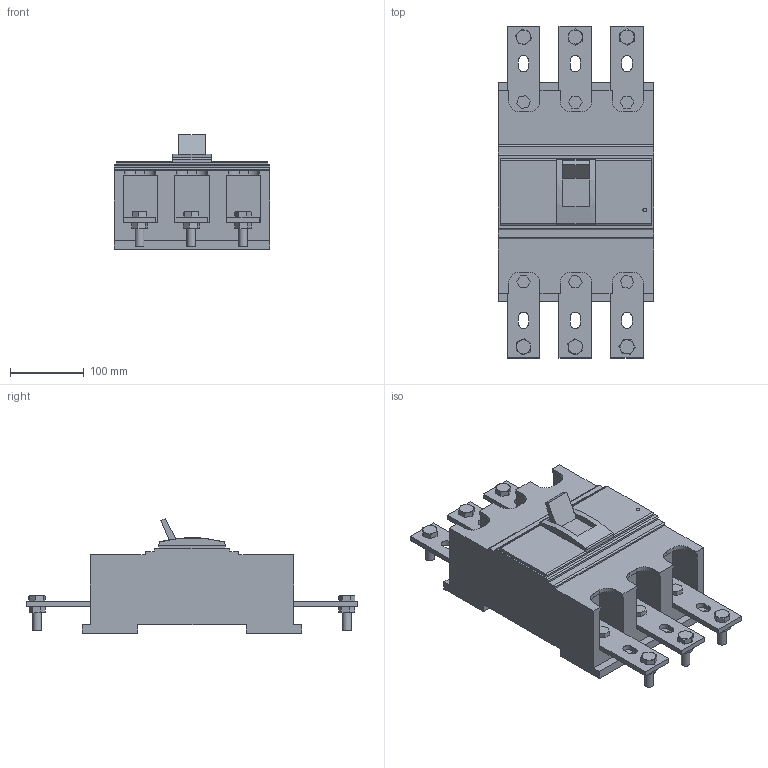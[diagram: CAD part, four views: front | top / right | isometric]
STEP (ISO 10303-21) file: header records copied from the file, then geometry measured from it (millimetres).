
FILE_DESCRIPTION (( 'STEP AP214' ), '1' );
FILE_NAME ('BW630EAG-3P.STEP', '2014-10-23T06:03:10', ( '' ), ( '' ), 'SwSTEP 2.0', 'SolidWorks 2014', '' );
FILE_SCHEMA (( 'AUTOMOTIVE_DESIGN' ));
Length unit declared in the file: millimetre
Products named in the file (27): Hexagon_Bolt_M12_L40_2; BW630EAG-3P_PLATE1; Hexagon_Bolt_M10_L35_5; Hexagon_Nut_M12_2; Hexagon_Bolt_M10_L35_4; Hexagon_Bolt_M10_L35_3; Hexagon_Bolt_M10_L35_2; BW630EAG-3P_PLATE6; Hexagon_Bolt_M12_L40_1; BW630EAG_Switch; Hexagon_Bolt_M10_L35_1; BW630EAG-3P_CASE.; Hexagon_Nut_M12_3; BW630EAG-3P_PLATE5; Hexagon_Bolt_M12_L40_4; Hexagon_Bolt_M12_L40_3; BW630EAG-3P_PLATE4; Hexagon_Bolt_M10_L35_6; Hexagon_Bolt_M12_L40_5; BW630EAG-3P_PLATE3; Hexagon_Nut_M12_5; BW630EAG-3P; BW630EAG-3P_PLATE2; Hexagon_Nut_M12_1; Hexagon_Bolt_M12_L40_6; Hexagon_Nut_M12_6; Hexagon_Nut_M12_4
Assembly tree (26 placements, depth 2):
  BW630EAG-3P
    BW630EAG-3P_CASE.
    BW630EAG-3P_PLATE1
    Hexagon_Bolt_M12_L40_1
    Hexagon_Nut_M12_1
    Hexagon_Bolt_M10_L35_1
    BW630EAG-3P_PLATE2
    Hexagon_Bolt_M10_L35_2
    Hexagon_Nut_M12_2
    Hexagon_Bolt_M12_L40_2
    Hexagon_Bolt_M12_L40_3
    Hexagon_Nut_M12_3
    Hexagon_Bolt_M10_L35_3
    BW630EAG-3P_PLATE3
    BW630EAG-3P_PLATE4
    Hexagon_Bolt_M10_L35_4
    Hexagon_Nut_M12_4
    Hexagon_Bolt_M12_L40_4
    Hexagon_Bolt_M10_L35_5
    BW630EAG-3P_PLATE5
    Hexagon_Nut_M12_5
    Hexagon_Bolt_M12_L40_5
    BW630EAG-3P_PLATE6
    Hexagon_Bolt_M10_L35_6
    Hexagon_Nut_M12_6
    Hexagon_Bolt_M12_L40_6
    BW630EAG_Switch
Bounding box: 210 x 449 x 155.2 mm (x, y, z)
Volume: 5596621.3 mm3; surface area: 421845.7 mm2
Topology: 27 solids, 27 shells, 437 faces, 1041 edges, 672 vertices
Faces by surface type: plane 299, cone 72, cylinder 66
Full cylindrical faces by diameter (mm): 5.2 x1, 10 x6, 10.5 x6, 12 x12, 14 x6
Entity records: 14775 total; most frequent: CARTESIAN_POINT 3000, ORIENTED_EDGE 2008, DIRECTION 1998, EDGE_CURVE 1004, AXIS2_PLACEMENT_3D 672, VERTEX_POINT 666, VECTOR 654, LINE 654
